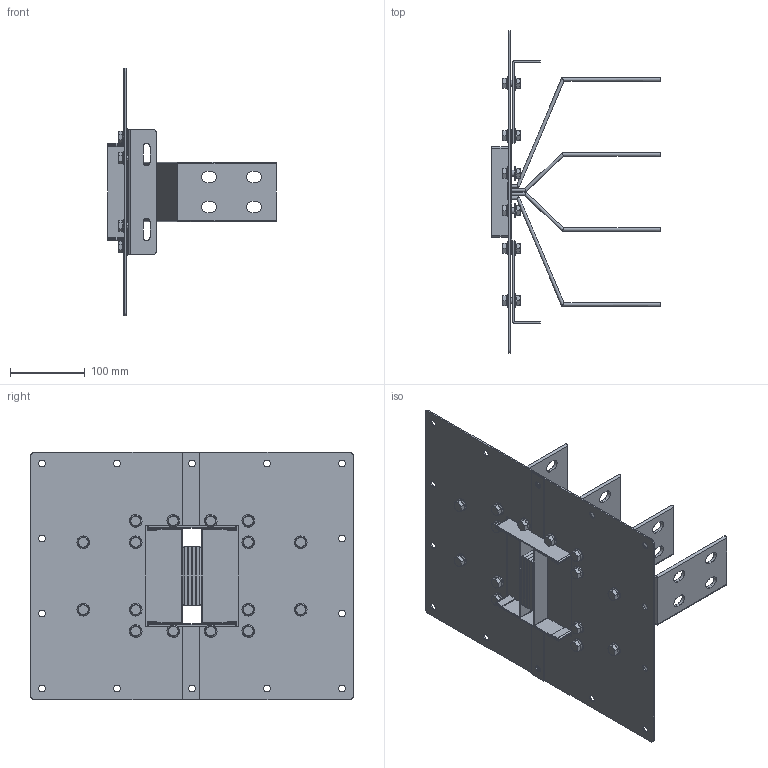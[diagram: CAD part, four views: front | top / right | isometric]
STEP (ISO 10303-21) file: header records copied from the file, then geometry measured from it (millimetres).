
FILE_DESCRIPTION(('CATIA V5 STEP','CAx-IF Rec.Pracs.--- Model Styling and Organization---1.5--- 2016-08-15','CAx-IF Rec.Pracs.---Supplemental Geometry---1.0---2011-11-01','CAx-IF Rec.Pracs.--- Composite Materials ---1.1---2010-07-15'),'2;1');
FILE_NAME('K:\COSCN 2011\32372311_RiduzioneSezioniBarre\03_Studio\__Modelli semplificati\XCP_UB semplificati per studi\XCP-S_UB_4C_Pe_STD_Assieme\Al\XCP-S_UB_4C_Pe_S_Assieme - 800A Al\XCP-S_UB_4C_Pe_S_Assieme - 800A Al.stp','2025-05-12T12:24:11+00:00',('Utente Bticino'),('Bticino S.p.A.'),'CATIA Version 5-6 Release 2020 SP5','CATIA V5 STEP AP214 v2','none');
FILE_SCHEMA(('AUTOMOTIVE_DESIGN { 1 0 10303 214 1 1 1 1 }'));
Length unit declared in the file: millimetre
Products named in the file (7): XCP-S_UB_4C_Pe_S_Assieme - 800A Al; XCP-S_UB_4C_Pe_S_PaccoBarre_800A Al; XCP-S_UB_4C_Pe_S_Lamiere_800A Al; Viteria UB H130; Ass Vite+dado M8; Steel hex flanged SCREW M12x16; Steel hex flanged NUT M8
Assembly tree (21 placements, depth 4):
  XCP-S_UB_4C_Pe_S_Assieme - 800A Al
    XCP-S_UB_4C_Pe_S_PaccoBarre_800A Al
    XCP-S_UB_4C_Pe_S_Lamiere_800A Al
    Viteria UB H130
      Ass Vite+dado M8  x16
        Steel hex flanged SCREW M12x16
        Steel hex flanged NUT M8
Bounding box: 225 x 430 x 330 mm (x, y, z)
Volume: 837023.8 mm3; surface area: 663961.4 mm2
Topology: 44 solids, 44 shells, 1148 faces, 2824 edges, 1796 vertices
Faces by surface type: plane 480, cylinder 380, cone 128, bspline 128, torus 32
Entity records: 14958 total; most frequent: CARTESIAN_POINT 3470, ORIENTED_EDGE 2468, DIRECTION 1936, EDGE_CURVE 1234, AXIS2_PLACEMENT_3D 820, VERTEX_POINT 806, VECTOR 732, LINE 732
